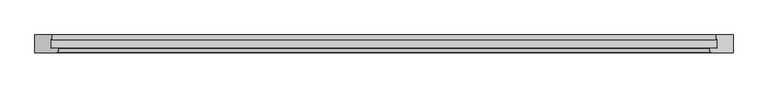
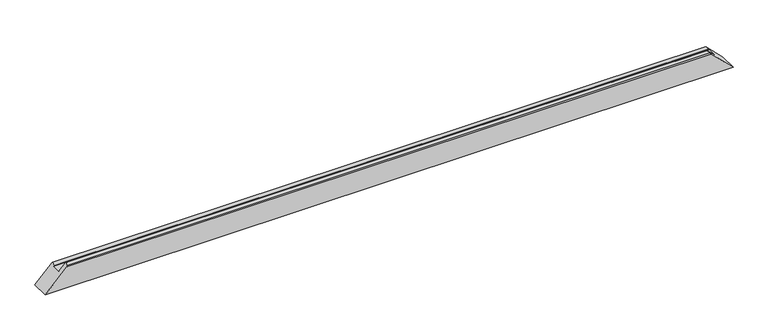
"""IFC4 building model written with IfcOpenShell, lengths in millimetres: proxy geometry, Weiku - Montante - Caixilho 02.2.01.005 : Weiku - Montante - Caixilho 02.2.01.005."""

from ifc_helpers import new_model, si_unit, frame, origin, place, context, project, spatial, ellipse_curve, source, transform, mapped, element, save
from ifc_brep_helpers import plane_surface, cylinder_surface, advanced_brep


def generic_models_2f7c3f64(model_context):
    return source(origin(), model_context, "Body", "AdvancedBrep", [
        advanced_brep(
        [(-926.5, 12.5, 46.0), (-906.3909676, 12.5, 66.1090324), (906.3909676, 12.5, 66.1090324), (926.5, 12.5, 46.0), (-926.5, 37.8314286, 46.0), (926.5, 37.8314286, 46.0), (-923.5, 37.027581, 49.0), (923.5, 37.027581, 49.0), (-923.5, 50.0, 49.0), (923.5, 50.0, 49.0), (972.5, 50.0, 0.0), (-972.5, 50.0, 0.0), (972.5, 0.0, 0.0), (-972.5, 0.0, 0.0), (910.9997332, 0.0, 61.5002668), (-910.9997332, 0.0, 61.5002668), (-905.618227, 11.4929448, 66.881773), (-908.1019557, 2.2235429, 64.3980443), (908.1019557, 2.2235429, 64.3980443), (905.618227, 11.4929448, 66.881773)],
        [
            (0, 1),
            (1, 2),
            (2, 3),
            (3, 0),
            (4, 0),
            (3, 5),
            (5, 4),
            (6, 4),
            (5, 7),
            (7, 6),
            (8, 6),
            (7, 9),
            (9, 8),
            (10, 11),
            (11, 8),
            (9, 10),
            (10, 12),
            (12, 13),
            (13, 11),
            (12, 14),
            (14, 15),
            (15, 13),
            (16, 17),
            (17, 18),
            (18, 19),
            (19, 16),
            (15, 17, ellipse_curve(frame((-910.9997332, 3.0, 61.5002668), z_axis=(-0.707106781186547, 0.0, 0.707106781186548), x_axis=(-0.7071067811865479, 0.0, -0.707106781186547)), 4.2426407, 3.0)),
            (16, 1, ellipse_curve(frame((-906.3909676, 11.7, 66.1090324), z_axis=(-0.707106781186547, 0.0, 0.707106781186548), x_axis=(-0.7071067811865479, 0.0, -0.707106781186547)), 1.1313708, 0.8)),
            (2, 19, ellipse_curve(frame((906.3909676, 11.7, 66.1090324), z_axis=(0.7071067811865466, 0.0, 0.7071067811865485), x_axis=(-0.7071067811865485, 0.0, 0.7071067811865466)), 1.1313708, 0.8)),
            (18, 14, ellipse_curve(frame((910.9997332, 3.0, 61.5002668), z_axis=(0.7071067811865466, 0.0, 0.7071067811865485), x_axis=(-0.7071067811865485, 0.0, 0.7071067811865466)), 4.2426407, 3.0)),
        ],
        [
            plane_surface(frame((-972.5, 12.5, 66.1090324), z_axis=(0.0, 1.0, 0.0), x_axis=(1.0, 0.0, 0.0))),
            plane_surface(frame((-972.5, 12.5, 46.0), z_axis=(0.0, 0.0, 1.0), x_axis=(1.0, 0.0, 0.0))),
            plane_surface(frame((-972.5, 37.8314286, 46.0), z_axis=(0.0, -0.9659258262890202, -0.2588190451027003), x_axis=(1.0, 0.0, 0.0))),
            plane_surface(frame((-972.5, 37.027581, 49.0), z_axis=(0.0, 0.0, 1.0), x_axis=(1.0, 0.0, 0.0))),
            plane_surface(frame((-972.5, 50.0, 49.0), z_axis=(0.0, 1.0, 0.0), x_axis=(1.0, 0.0, 0.0))),
            plane_surface(frame((-972.5, 50.0, 0.0), z_axis=(0.0, 0.0, -1.0), x_axis=(1.0, 0.0, 0.0))),
            plane_surface(frame((-972.5, 0.0, 0.0), z_axis=(0.0, -1.0, 0.0), x_axis=(1.0, 0.0, 0.0))),
            plane_surface(frame((-972.5, 2.2235429, 64.3980443), z_axis=(0.0, -0.2588190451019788, 0.9659258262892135), x_axis=(1.0, 0.0, 0.0))),
            plane_surface(frame((-1042.5, -15.0, -70.0), z_axis=(-0.707106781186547, 0.0, 0.707106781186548), x_axis=(0.0, 1.0, 0.0))),
            plane_surface(frame((902.5, -15.0, 70.0), z_axis=(0.7071067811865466, 0.0, 0.7071067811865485), x_axis=(0.0, 1.0, 0.0))),
            cylinder_surface(frame((-972.5, 11.7, 66.1090324), z_axis=(-1.0, 0.0, 0.0), x_axis=(0.0, 1.0, 0.0)), 0.8),
            cylinder_surface(frame((-972.5, 3.0, 61.5002668), z_axis=(-1.0, 0.0, 0.0), x_axis=(0.0, 1.0, 0.0)), 3.0),
        ],
        [
            (0, [[1, 2, 3, 4]]),
            (1, [[5, -4, 6, 7]]),
            (2, [[8, -7, 9, 10]]),
            (3, [[11, -10, 12, 13]]),
            (4, [[14, 15, -13, 16]]),
            (5, [[-14, 17, 18, 19]]),
            (6, [[-18, 20, 21, 22]]),
            (7, [[23, 24, 25, 26]]),
            (8, [[-1, -5, -8, -11, -15, -19, -22, 27, -23, 28]]),
            (9, [[-3, 29, -25, 30, -20, -17, -16, -12, -9, -6]]),
            (10, [[-28, -26, -29, -2]]),
            (11, [[-27, -21, -30, -24]]),
        ],
    ),
    ])


if __name__ == "__main__":
    model = new_model("IFC4")
    model_context = context("Model", 3, world=origin())
    ifc_project = project(units=[si_unit("LENGTHUNIT", "METRE", prefix="MILLI")], contexts=[model_context])
    site = spatial("IfcSite", under=ifc_project)
    building = spatial("IfcBuilding", under=site)
    placement = place(None, origin())
    generic_models_shape = generic_models_2f7c3f64(model_context)
    element("IfcBuildingElementProxy", 1, Name="Weiku - Montante - Caixilho 02.2.01.005 : Weiku - Montante - Caixilho 02.2.01.005", ObjectType="Weiku - Montante - Caixilho 02.2.01.005 : Weiku - Montante - Caixilho 02.2.01.005", at=placement, inside=building, context=model_context, shape_type="MappedRepresentation", body=[
        mapped(generic_models_shape, transform((0.0, 0.0, 0.0), x_axis=(1.0, 0.0, 0.0), y_axis=(0.0, 1.0, 0.0), z_axis=(0.0, 0.0, 1.0))),
    ])
    save(model, "model.ifc")
